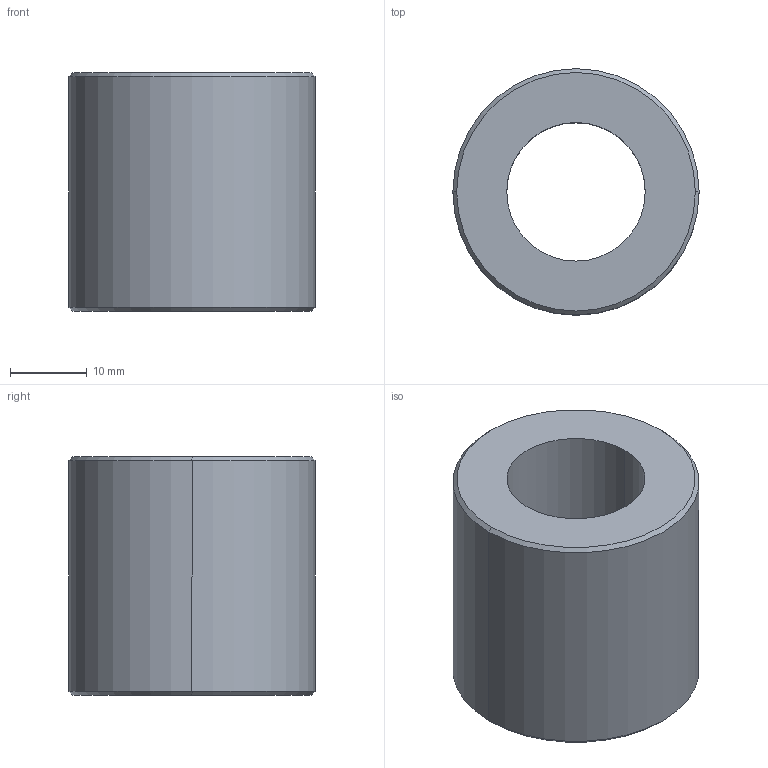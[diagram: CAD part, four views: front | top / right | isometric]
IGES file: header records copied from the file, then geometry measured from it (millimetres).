
Start section: 3D InterOp IGES (Version 21 0 1), Spatial Corp. Copyright (c) 1999-2007.
Global section: file name: TMON-18L.igs; native system: Spatial Corp.; preprocessor: 3D InterOp GENERIC/IGES 3.0; author: Noname; organization: Noname; date: 20220204.162613; units: millimetre
Bounding box: 32 x 32 x 31 mm (x, y, z)
Surface area: 5909.5 mm2 (no closed solid volume)
Topology: 0 solids, 0 shells, 10 faces, 40 edges, 40 vertices
Faces by surface type: revolution 8, extrusion 2
